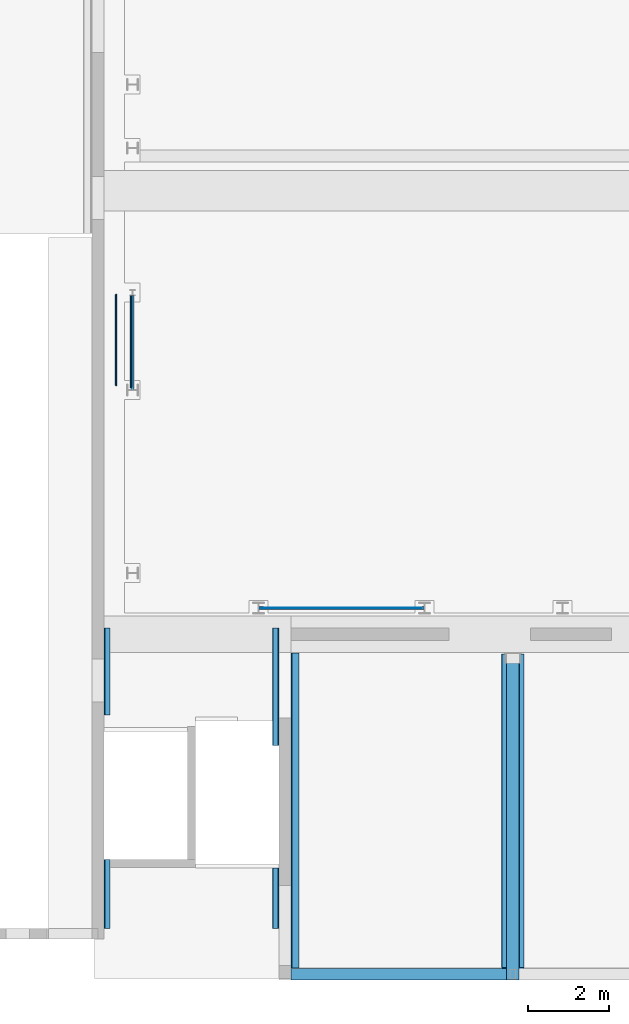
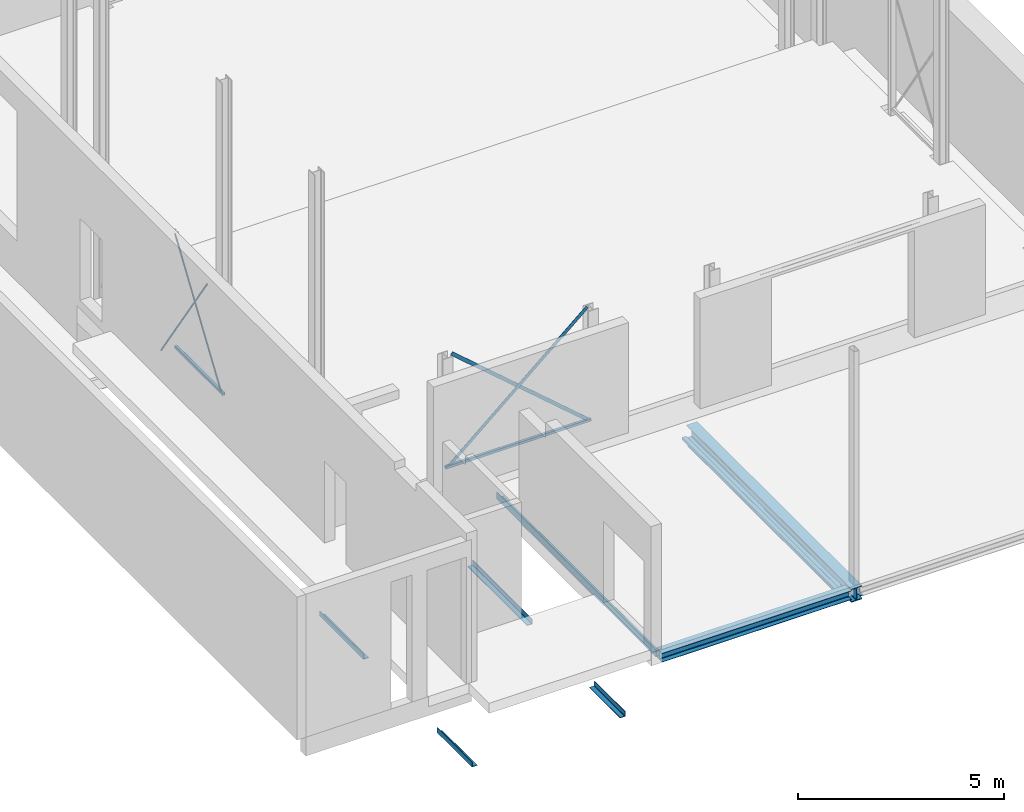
# One storey, part 11 of 37: 15 beams.
"""IFC2X3 building model written with IfcOpenShell, lengths in millimetres."""

import ifcopenshell
import ifcopenshell.guid

model = None  # the IFC model being written
_history = None  # IfcOwnerHistory: only IFC2X3 demands one
_inside = {}  # id of a spatial element -> (the spatial element, [elements in it])
_under = {}  # id of a project, library or spatial element -> (it, [spatial elements below it])
_declared = {}  # id of a project -> (the project, [libraries it declares])
_typed = {}  # id of a type object -> (the type object, [elements of that type])
_made_of = {}  # id of a material, layer set ... -> (it, [elements and type objects made of it])


def new_model(schema):
    """Start an empty IFC model of exactly this schema.

    Asked for "IFC4X3", IfcOpenShell would pick the latest addendum, in which some entities
    have other attributes; the version numbers below select the first issue.
    IFC2X3 requires an IfcOwnerHistory on every rooted entity: one is made here for all.
    """
    global model, _history
    if schema == "IFC4X3":
        model = ifcopenshell.file(schema_version=(4, 3, 0, 0))
    else:
        model = ifcopenshell.file(schema=schema)
    _inside.clear()
    _under.clear()
    _declared.clear()
    _typed.clear()
    _made_of.clear()
    _history = None
    if model.schema == "IFC2X3":
        org = make("IfcOrganization", Name="unknown")
        user = make(
            "IfcPersonAndOrganization",
            ThePerson=make("IfcPerson", FamilyName="unknown"),
            TheOrganization=org,
        )
        app = make(
            "IfcApplication",
            ApplicationDeveloper=org,
            Version="unknown",
            ApplicationFullName="unknown",
            ApplicationIdentifier="unknown",
        )
        _history = make(
            "IfcOwnerHistory",
            OwningUser=user,
            OwningApplication=app,
            ChangeAction="ADDED",
            CreationDate=0,
        )
    return model


def make(cls, **values):
    """One entity of the class cls with the attributes given. An attribute that is None is left unset."""
    return model.create_entity(
        cls, **{name: value for name, value in values.items() if value is not None}
    )


def entity(cls, *values):
    """Any entity or typed value of the class cls, its attributes in the order of the schema. None: left unset."""
    e = model.create_entity(cls)
    for i, value in enumerate(values):
        if value is not None:
            e[i] = value
    return e


def rooted(cls, **values):
    """An entity with a GlobalId (a new one), such as an element, a storey or a relation."""
    return make(cls, GlobalId=ifcopenshell.guid.new(), OwnerHistory=_history, **values)


def si_unit(unit_type, name, prefix=None):
    """IfcSIUnit, for example si_unit("LENGTHUNIT", "METRE", prefix="MILLI")."""
    return make("IfcSIUnit", UnitType=unit_type, Prefix=prefix, Name=name)


def converted_unit(unit_type, name, factor, base, dimensions=None, offset=None):
    """IfcConversionBasedUnit, such as the inch: factor (a typed value) times the base unit."""
    return make(
        "IfcConversionBasedUnit"
        if offset is None
        else "IfcConversionBasedUnitWithOffset",
        ConversionOffset=offset,
        Dimensions=None
        if dimensions is None
        else entity("IfcDimensionalExponents", *dimensions),
        UnitType=unit_type,
        Name=name,
        ConversionFactor=make(
            "IfcMeasureWithUnit", ValueComponent=factor, UnitComponent=base
        ),
    )


def derived_unit(unit_type, elements):
    """IfcDerivedUnit: a product of units, each with its exponent."""
    return make(
        "IfcDerivedUnit",
        Elements=[
            make("IfcDerivedUnitElement", Unit=unit, Exponent=power)
            for unit, power in elements
        ],
        UnitType=unit_type,
    )


def assignment(units):
    """IfcUnitAssignment: the units of a project."""
    return None if units is None else make("IfcUnitAssignment", Units=units)


def point(xyz):
    """IfcCartesianPoint."""
    return None if xyz is None else make("IfcCartesianPoint", Coordinates=xyz)


def direction(xyz):
    """IfcDirection."""
    return None if xyz is None else make("IfcDirection", DirectionRatios=xyz)


def frame(location, z_axis=None, x_axis=None):
    """IfcAxis2Placement3D, a coordinate frame: its origin and axes. An axis left out is left unset."""
    return make(
        "IfcAxis2Placement3D",
        Location=point(location),
        Axis=direction(z_axis),
        RefDirection=direction(x_axis),
    )


def frame_2d(location, x_axis=None):
    """IfcAxis2Placement2D, a coordinate frame in the plane: its origin and x axis."""
    return make(
        "IfcAxis2Placement2D", Location=point(location), RefDirection=direction(x_axis)
    )


def origin():
    """The frame at (0, 0, 0) with its axes left unset."""
    return frame((0.0, 0.0, 0.0))


def origin_2d_with_axis():
    """The frame at (0, 0) in the plane with the x axis (1, 0) written out."""
    return frame_2d((0.0, 0.0), x_axis=(1.0, 0.0))


def place(relative_to, where):
    """IfcLocalPlacement: puts the frame where relative to a parent placement (None: the world)."""
    return make(
        "IfcLocalPlacement", PlacementRelTo=relative_to, RelativePlacement=where
    )


def context(
    kind, dimensions, precision=None, world=None, true_north=None, identifier=None
):
    """IfcGeometricRepresentationContext, for example the 3D "Model" context."""
    return make(
        "IfcGeometricRepresentationContext",
        ContextIdentifier=identifier,
        ContextType=kind,
        CoordinateSpaceDimension=dimensions,
        Precision=precision,
        WorldCoordinateSystem=world,
        TrueNorth=true_north,
    )


def subcontext(parent, identifier, kind, view, scale=None):
    """IfcGeometricRepresentationSubContext, for example "Body" below "Model"."""
    return make(
        "IfcGeometricRepresentationSubContext",
        ContextIdentifier=identifier,
        ContextType=kind,
        ParentContext=parent,
        TargetScale=scale,
        TargetView=view,
    )


def project(units=None, contexts=None):
    """IfcProject with its units and contexts."""
    return rooted(
        "IfcProject",
        Name="project",
        RepresentationContexts=contexts,
        UnitsInContext=assignment(units),
    )


def spatial(cls, under=None, at=None, **own):
    """A site, building, storey or space (cls), placed at a placement, below another one or the project."""
    s = rooted(cls, ObjectPlacement=at, **own)
    if under is not None:
        _under.setdefault(under.id(), (under, []))[1].append(s)
    return s


def polyline(points):
    """IfcPolyline through the points."""
    return make("IfcPolyline", Points=[point(p) for p in points])


def circle_curve(where, radius):
    """IfcCircle in the frame where."""
    return make("IfcCircle", Position=where, Radius=radius)


def parameter(value):
    """IfcParameterValue: where a trimmed curve begins or ends, as a parameter of its basis curve."""
    return model.create_entity("IfcParameterValue", value)


def trimmed(basis, trim1, trim2, sense, master):
    """IfcTrimmedCurve: the piece of a basis curve between two trims."""
    return make(
        "IfcTrimmedCurve",
        BasisCurve=basis,
        Trim1=trim1,
        Trim2=trim2,
        SenseAgreement=sense,
        MasterRepresentation=master,
    )


def segment(curve, same_sense, transition):
    """IfcCompositeCurveSegment."""
    return make(
        "IfcCompositeCurveSegment",
        Transition=transition,
        SameSense=same_sense,
        ParentCurve=curve,
    )


def composite_curve(segments, self_intersect=None):
    """IfcCompositeCurve: segments joined end to end."""
    return make("IfcCompositeCurve", Segments=segments, SelfIntersect=self_intersect)


def profile(cls, at=None, kind="AREA", **sizes):
    """A parametric profile (cls). Its sizes go by their IFC names, for example OverallWidth=200.0."""
    return make(cls, ProfileType=kind, Position=at, **sizes)


def rectangle(**sizes):
    """IfcRectangleProfileDef."""
    return profile("IfcRectangleProfileDef", **sizes)


def circle(**sizes):
    """IfcCircleProfileDef."""
    return profile("IfcCircleProfileDef", **sizes)


def i_section(**sizes):
    """IfcIShapeProfileDef."""
    return profile("IfcIShapeProfileDef", **sizes)


def outline(outer, holes=None, kind="AREA"):
    """IfcArbitraryClosedProfileDef: a profile drawn as a closed curve; with holes, ...WithVoids."""
    if holes is None:
        return make("IfcArbitraryClosedProfileDef", ProfileType=kind, OuterCurve=outer)
    return make(
        "IfcArbitraryProfileDefWithVoids",
        ProfileType=kind,
        OuterCurve=outer,
        InnerCurves=holes,
    )


def extrude(swept, where, along, depth):
    """IfcExtrudedAreaSolid: the profile swept, set in the frame where, extruded along a direction by depth."""
    return make(
        "IfcExtrudedAreaSolid",
        SweptArea=swept,
        Position=where,
        ExtrudedDirection=direction(along),
        Depth=depth,
    )


def shape(context_of_items, identifier, shape_type, items):
    """IfcShapeRepresentation: the items that make up one representation, for example the "Body"."""
    return make(
        "IfcShapeRepresentation",
        ContextOfItems=context_of_items,
        RepresentationIdentifier=identifier,
        RepresentationType=shape_type,
        Items=items,
    )


def source(mapping_origin, context_of_items, identifier, shape_type, items):
    """IfcRepresentationMap: a shape defined once, which mapped items show again and again."""
    return make(
        "IfcRepresentationMap",
        MappingOrigin=mapping_origin,
        MappedRepresentation=shape(context_of_items, identifier, shape_type, items),
    )


def transform(
    local_origin,
    x_axis=None,
    y_axis=None,
    z_axis=None,
    scale=None,
    scale2=None,
    scale3=None,
    uniform=True,
):
    """IfcCartesianTransformationOperator3D, or its non-uniform kind. x_axis, y_axis, z_axis: its Axis1, 2, 3."""
    if uniform:
        return make(
            "IfcCartesianTransformationOperator3D",
            Axis1=direction(x_axis),
            Axis2=direction(y_axis),
            LocalOrigin=point(local_origin),
            Scale=scale,
            Axis3=direction(z_axis),
        )
    return make(
        "IfcCartesianTransformationOperator3DnonUniform",
        Axis1=direction(x_axis),
        Axis2=direction(y_axis),
        LocalOrigin=point(local_origin),
        Scale=scale,
        Axis3=direction(z_axis),
        Scale2=scale2,
        Scale3=scale3,
    )


def mapped(mapping_source, mapping_target):
    """IfcMappedItem: shows the shape of a source again, moved by a transform."""
    return make(
        "IfcMappedItem", MappingSource=mapping_source, MappingTarget=mapping_target
    )


def material(Name=None, Category=None):
    """IfcMaterial."""
    return make("IfcMaterial", Name=Name, Category=Category)


def material_list(materials):
    """IfcMaterialList."""
    return make("IfcMaterialList", Materials=materials)


def made_of(thing, what):
    """Note that an element or type object is made of a material, layer set ...; save() writes the relation."""
    if what is not None:
        _made_of.setdefault(what.id(), (what, []))[1].append(thing)
    return thing


def type_object(cls, material=None, **own):
    """A type object (cls), such as IfcWallType, which elements share."""
    return made_of(rooted(cls, **own), material)


def type_shapes(of_type, sources):
    """Give a type object the sources (RepresentationMaps) that its elements show as mapped items."""
    of_type.RepresentationMaps = sources


def element(
    cls,
    number,
    at=None,
    inside=None,
    cuts=None,
    type_object=None,
    material=None,
    context=None,
    identifier="Body",
    shape_type=None,
    held_by="IfcProductDefinitionShape",
    body=None,
    shapes=None,
    **own,
):
    """One element of the class cls, such as IfcWall. Its Tag is "e" and its number.

    at: its placement. inside: the storey or other place that contains it. cuts: it is an
    opening in that element (IfcRelVoidsElement). A single representation is given by context,
    identifier, shape_type and body (its items); several are given by shapes. held_by: the class
    of the entity that holds the representations. save() writes the other relations.
    """
    e = rooted(cls, Tag="e%d" % number, ObjectPlacement=at, **own)
    if body is not None:
        shapes = [shape(context, identifier, shape_type, body)]
    if shapes is not None:
        e.Representation = make(held_by, Representations=shapes)
    if inside is not None:
        _inside.setdefault(inside.id(), (inside, []))[1].append(e)
    if cuts is not None:
        rooted(
            "IfcRelVoidsElement", RelatingBuildingElement=cuts, RelatedOpeningElement=e
        )
    if type_object is not None:
        _typed.setdefault(type_object.id(), (type_object, []))[1].append(e)
    return made_of(e, material)


def aggregate(whole, parts):
    """IfcRelAggregates: a whole, such as a stair, and the parts it consists of."""
    return rooted("IfcRelAggregates", RelatingObject=whole, RelatedObjects=parts)


def save(model, path):
    """Write the relations noted so far, then the file.

    IfcRelAggregates (storeys below a building ...), IfcRelContainedInSpatialStructure (elements
    in a storey), IfcRelDefinesByType, IfcRelAssociatesMaterial and IfcRelDeclares: one each for
    every whole, place, type object, material and project.
    """
    for whole, parts in _under.values():
        aggregate(whole, parts)
    for where, things in _inside.values():
        rooted(
            "IfcRelContainedInSpatialStructure",
            RelatedElements=things,
            RelatingStructure=where,
        )
    for kind, things in _typed.values():
        rooted("IfcRelDefinesByType", RelatedObjects=things, RelatingType=kind)
    for what, things in _made_of.values():
        rooted("IfcRelAssociatesMaterial", RelatedObjects=things, RelatingMaterial=what)
    for by, libraries in _declared.values():
        rooted("IfcRelDeclares", RelatingContext=by, RelatedDefinitions=libraries)
    model.write(path)


model = new_model("IFC2X3")

# Units and contexts
model_context = context("Model", 3, precision=0.01, world=origin(), true_north=direction((6.12303176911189e-17, 1.0)))
body_context = subcontext(model_context, "Body", "Model", "MODEL_VIEW")
ifc_project = project(units=[si_unit("LENGTHUNIT", "METRE", prefix="MILLI"), si_unit("AREAUNIT", "SQUARE_METRE", prefix="MILLI"), si_unit("VOLUMEUNIT", "CUBIC_METRE"), converted_unit("PLANEANGLEUNIT", "DEGREE", entity("IfcRatioMeasure", 0.0174532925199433), si_unit("PLANEANGLEUNIT", "RADIAN"), dimensions=[0, 0, 0, 0, 0, 0, 0]), si_unit("MASSUNIT", "GRAM", prefix="KILO"), derived_unit("MASSDENSITYUNIT", [(si_unit("MASSUNIT", "GRAM", prefix="KILO"), 1), (si_unit("LENGTHUNIT", "METRE"), -3)]), derived_unit("MOMENTOFINERTIAUNIT", [(si_unit("LENGTHUNIT", "METRE"), 4)]), si_unit("TIMEUNIT", "SECOND"), si_unit("FREQUENCYUNIT", "HERTZ"), si_unit("THERMODYNAMICTEMPERATUREUNIT", "DEGREE_CELSIUS"), derived_unit("THERMALTRANSMITTANCEUNIT", [(si_unit("MASSUNIT", "GRAM", prefix="KILO"), 1), (si_unit("THERMODYNAMICTEMPERATUREUNIT", "KELVIN"), -1), (si_unit("TIMEUNIT", "SECOND"), -3)]), derived_unit("VOLUMETRICFLOWRATEUNIT", [(si_unit("LENGTHUNIT", "METRE"), 3), (si_unit("TIMEUNIT", "SECOND"), -1)]), si_unit("ELECTRICCURRENTUNIT", "AMPERE"), si_unit("ELECTRICVOLTAGEUNIT", "VOLT"), si_unit("POWERUNIT", "WATT"), si_unit("FORCEUNIT", "NEWTON", prefix="KILO"), si_unit("ILLUMINANCEUNIT", "LUX"), si_unit("LUMINOUSFLUXUNIT", "LUMEN"), si_unit("LUMINOUSINTENSITYUNIT", "CANDELA"), derived_unit("USERDEFINED", [(si_unit("MASSUNIT", "GRAM", prefix="KILO"), -1), (si_unit("LENGTHUNIT", "METRE"), -2), (si_unit("TIMEUNIT", "SECOND"), 3), (si_unit("LUMINOUSFLUXUNIT", "LUMEN"), 1)]), derived_unit("LINEARVELOCITYUNIT", [(si_unit("LENGTHUNIT", "METRE"), 1), (si_unit("TIMEUNIT", "SECOND"), -1)]), si_unit("PRESSUREUNIT", "PASCAL"), derived_unit("USERDEFINED", [(si_unit("LENGTHUNIT", "METRE"), -2), (si_unit("MASSUNIT", "GRAM", prefix="KILO"), 1), (si_unit("TIMEUNIT", "SECOND"), -2)]), derived_unit("LINEARFORCEUNIT", [(si_unit("MASSUNIT", "GRAM", prefix="KILO"), 1), (si_unit("LENGTHUNIT", "METRE"), 1), (si_unit("TIMEUNIT", "SECOND"), -2), (si_unit("LENGTHUNIT", "METRE"), -1)]), derived_unit("PLANARFORCEUNIT", [(si_unit("MASSUNIT", "GRAM", prefix="KILO"), 1), (si_unit("LENGTHUNIT", "METRE"), 1), (si_unit("TIMEUNIT", "SECOND"), -2), (si_unit("LENGTHUNIT", "METRE"), -2)])], contexts=[model_context])

# Site, building, storey
site_placement = place(None, origin())
site = spatial("IfcSite", under=ifc_project, at=site_placement, Name="Theater aan de Parade", CompositionType="ELEMENT")
building_placement = place(site_placement, origin())
building = spatial("IfcBuilding", under=site, at=building_placement, Name="Theater aan de Parade", CompositionType="ELEMENT")
storey_placement = place(building_placement, frame((0.0, 0.0, 5020.0)))
storey = spatial("IfcBuildingStorey", under=building, at=storey_placement, Name="01 eerste verdieping", CompositionType="ELEMENT", Elevation=5020.0)

# Beams
ifc_material_1 = material(Name="00_PBT_MAT_staal_S355")
ifc_material_2 = material(Name="00_PBT_MAT_Lucht")
ifc_material_list = material_list([ifc_material_1, ifc_material_2])
beam_type_1 = type_object("IfcBeamType", Name="28_PBT_SF_staal_H-profiel_met_onderplaat (void):S355_HE400B + onderplaat d=25", PredefinedType="BEAM", material=ifc_material_list)
shared_shape = source(origin(), body_context, "Body", "SweptSolid", [
    extrude(i_section(OverallWidth=300.000000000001, OverallDepth=400.0, WebThickness=13.5000000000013, FlangeThickness=24.0, FilletRadius=26.9999999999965, at=frame_2d((-2.1600499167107e-12, 0.0), x_axis=(1.0, 0.0))), frame((25410.0, 9057.0, 4675.0), z_axis=(0.0, 1.0, 0.0), x_axis=(-1.0, 0.0, 0.0)), (0.0, 0.0, 1.0), 8014.30844689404),
    extrude(rectangle(XDim=24.9999999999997, YDim=539.999999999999, at=frame_2d((0.0, 0.0), x_axis=(0.0, 1.0))), frame((25410.0, 9207.0, 4462.5), z_axis=(0.0, 1.0, 0.0), x_axis=(-1.0, 0.0, 0.0)), (0.0, 0.0, 1.0), 7604.30844689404),
])
type_shapes(beam_type_1, [shared_shape])
beam_1_placement = place(storey_placement, frame((0.0, 0.0, -5020.0)))
element("IfcBeam", 1, at=beam_1_placement, inside=storey, type_object=beam_type_1, material=ifc_material_1, Name="28_PBT_SF_staal_H-profiel_met_onderplaat (void):S355_HE400B + onderplaat d=25", ObjectType="28_PBT_SF_staal_H-profiel_met_onderplaat (void):S355_HE400B + onderplaat d=25", context=body_context, shape_type="MappedRepresentation", body=[
    mapped(shared_shape, transform((0.0, 0.0, 0.0), scale=1.0)),
])
ifc_material_3 = material(Name="00_PBT_MAT_staal")
beam_type_2 = type_object("IfcBeamType", Name="28_PBT_SF_staal_strip:strip 6x100", PredefinedType="NOTDEFINED")
beam_2_placement = place(storey_placement, frame((19219.3792721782, 18206.3058650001, 27.8977347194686), z_axis=(-0.653596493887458, 0.0, 0.75684319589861), x_axis=(0.75684319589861, 0.0, 0.653596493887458)))
element("IfcBeam", 2, at=beam_2_placement, inside=storey, type_object=beam_type_2, material=ifc_material_3, Name="28_PBT_SF_staal_strip:strip 6x100", ObjectType="28_PBT_SF_staal_strip:strip 6x100", context=body_context, shape_type="SweptSolid", body=[
    extrude(rectangle(XDim=99.9999999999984, YDim=5.99999999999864, at=origin_2d_with_axis()), frame((0.0, -3.0, 0.0), z_axis=(1.0, 0.0, 0.0), x_axis=(0.0, 0.0, -1.0)), (0.0, 0.0, 1.0), 5174.65038309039),
])
beam_3_placement = place(storey_placement, frame((23235.8687204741, 18206.305865, -2.59653295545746), z_axis=(0.653118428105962, 0.0, 0.757255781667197), x_axis=(-0.757255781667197, 0.0, 0.653118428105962)))
element("IfcBeam", 3, at=beam_3_placement, inside=storey, type_object=beam_type_2, material=ifc_material_3, Name="28_PBT_SF_staal_strip:strip 6x100", ObjectType="28_PBT_SF_staal_strip:strip 6x100", context=body_context, shape_type="SweptSolid", body=[
    extrude(rectangle(XDim=100.000000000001, YDim=5.99999999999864, at=frame_2d((0.0, 1.08291153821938e-12), x_axis=(1.0, 0.0))), frame((139.84222696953, -3.0, 0.0), z_axis=(1.0, 0.0, 0.0), x_axis=(0.0, 0.0, -1.0)), (0.0, 0.0, 1.0), 5009.02795542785),
])
beam_type_3 = type_object("IfcBeamType", Name="28_PBT_SF_staal_H-profiel (void):S355_HE280A", PredefinedType="NOTDEFINED")
beam_4_placement = place(storey_placement, frame((25260.0, 9197.0, 0.0), z_axis=(0.0, 0.0, 1.0), x_axis=(-1.0, 0.0, 0.0)))
element("IfcBeam", 4, at=beam_4_placement, inside=storey, type_object=beam_type_3, material=ifc_material_1, Name="28_PBT_SF_staal_H-profiel (void):S355_HE280A", ObjectType="28_PBT_SF_staal_H-profiel (void):S355_HE280A", context=body_context, shape_type="SweptSolid", body=[
    extrude(outline(composite_curve([segment(polyline([(122.0, -140.0), (135.0, -140.0)]), True, "CONTINUOUS"), segment(polyline([(135.0, -140.0), (135.0, 140.0)]), True, "CONTINUOUS"), segment(polyline([(135.0, 140.0), (122.0, 140.0)]), True, "CONTINUOUS"), segment(polyline([(122.0, 140.0), (122.0, 28.0)]), True, "CONTINUOUS"), segment(trimmed(circle_curve(frame_2d((98.0, 28.0), x_axis=(1.0, 0.0)), 23.9999999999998), [parameter(270.0)], [parameter(0.0)], True, "PARAMETER"), False, "CONTINUOUS"), segment(polyline([(98.0, 4.0), (-98.0, 4.0)]), True, "CONTINUOUS"), segment(trimmed(circle_curve(frame_2d((-98.0, 28.0), x_axis=(0.0, -1.0)), 24.0000000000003), [parameter(270.000000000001)], [parameter(0.0)], True, "PARAMETER"), False, "CONTINUOUS"), segment(polyline([(-122.0, 28.0), (-122.0, 140.0)]), True, "CONTINUOUS"), segment(polyline([(-122.0, 140.0), (-135.0, 140.0)]), True, "CONTINUOUS"), segment(polyline([(-135.0, 140.0), (-135.0, -140.0)]), True, "CONTINUOUS"), segment(polyline([(-135.0, -140.0), (-122.0, -140.0)]), True, "CONTINUOUS"), segment(polyline([(-122.0, -140.0), (-122.0, -28.0)]), True, "CONTINUOUS"), segment(trimmed(circle_curve(frame_2d((-98.0, -28.0), x_axis=(-1.0, 0.0)), 23.9999999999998), [parameter(269.999999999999)], [parameter(0.0)], True, "PARAMETER"), False, "CONTINUOUS"), segment(polyline([(-98.0, -4.0), (98.0, -4.0)]), True, "CONTINUOUS"), segment(trimmed(circle_curve(frame_2d((98.0, -28.0), x_axis=(0.0, 1.0)), 24.0000000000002), [parameter(270.000000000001)], [parameter(0.0)], True, "PARAMETER"), False, "CONTINUOUS"), segment(polyline([(122.0, -28.0), (122.0, -140.0)]), True, "CONTINUOUS")], self_intersect=False)), frame((0.0, 0.0, -325.0), z_axis=(1.0, 0.0, 0.0), x_axis=(0.0, 0.0, -1.0)), (0.0, 0.0, 1.0), 5306.14299748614),
])
beam_type_4 = type_object("IfcBeamType", Name="28_PBT_SF_staal_L-profiel:S355_L150x150x15", PredefinedType="NOTDEFINED")
beam_5_placement = place(storey_placement, frame((15396.3570025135, 15464.9752768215, 0.0), z_axis=(0.0, 0.0, 1.0), x_axis=(0.0, 1.0, 0.0)))
element("IfcBeam", 5, at=beam_5_placement, inside=storey, type_object=beam_type_4, material=ifc_material_1, Name="28_PBT_SF_staal_L-profiel:S355_L150x150x15", ObjectType="28_PBT_SF_staal_L-profiel:S355_L150x150x15", context=body_context, shape_type="SweptSolid", body=[
    extrude(outline(composite_curve([segment(polyline([(49.6666666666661, -93.3333333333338), (56.6666666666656, -93.3333333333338)]), True, "CONTINUOUS"), segment(polyline([(56.6666666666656, -93.3333333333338), (56.6666666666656, 56.6666666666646)]), True, "CONTINUOUS"), segment(polyline([(56.6666666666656, 56.6666666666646), (-93.3333333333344, 56.6666666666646)]), True, "CONTINUOUS"), segment(polyline([(-93.3333333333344, 56.6666666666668), (-93.3333333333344, 49.6666666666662)]), True, "CONTINUOUS"), segment(trimmed(circle_curve(frame_2d((-85.3333333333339, 49.6666666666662), x_axis=(-1.0, 0.0)), 8.00000000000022), [parameter(0.0)], [parameter(90.0000000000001)], True, "PARAMETER"), True, "CONTINUOUS"), segment(polyline([(-85.3333333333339, 41.6666666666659), (25.6666666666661, 41.6666666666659)]), True, "CONTINUOUS"), segment(trimmed(circle_curve(frame_2d((25.6666666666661, 25.6666666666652), x_axis=(0.0, 1.0)), 15.9999999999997), [parameter(270.0)], [parameter(0.0)], True, "PARAMETER"), False, "CONTINUOUS"), segment(polyline([(41.6666666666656, 25.6666666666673), (41.6666666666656, -85.3333333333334)]), True, "CONTINUOUS"), segment(trimmed(circle_curve(frame_2d((49.6666666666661, -85.3333333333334), x_axis=(-1.0, 0.0)), 8.00000000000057), [parameter(0.0)], [parameter(89.9999999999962)], True, "PARAMETER"), True, "CONTINUOUS")], self_intersect=False)), frame((112.699999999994, -14.1666666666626, -2663.33333333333), z_axis=(1.0, 0.0, 0.0), x_axis=(0.0, 0.0, -1.0)), (0.0, 0.0, 1.0), 2133.63317767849),
])
beam_6_placement = place(storey_placement, frame((19611.3570025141, 14828.0288742, 0.0), z_axis=(0.0, 0.0, 1.0), x_axis=(0.0, 1.0, 0.0)))
element("IfcBeam", 6, at=beam_6_placement, inside=storey, type_object=beam_type_4, material=ifc_material_1, Name="28_PBT_SF_staal_L-profiel:S355_L150x150x15", ObjectType="28_PBT_SF_staal_L-profiel:S355_L150x150x15", context=body_context, shape_type="SweptSolid", body=[
    extrude(outline(composite_curve([segment(polyline([(-93.333333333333, -56.6666666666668), (56.666666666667, -56.6666666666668)]), True, "CONTINUOUS"), segment(polyline([(56.666666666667, -56.6666666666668), (56.666666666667, 93.3333333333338)]), True, "CONTINUOUS"), segment(polyline([(56.666666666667, 93.3333333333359), (49.6666666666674, 93.3333333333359)]), True, "CONTINUOUS"), segment(trimmed(circle_curve(frame_2d((49.6666666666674, 85.3333333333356), x_axis=(0.0, 1.0)), 8.00000000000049), [parameter(0.0)], [parameter(89.9999999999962)], True, "PARAMETER"), True, "CONTINUOUS"), segment(polyline([(41.666666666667, 85.3333333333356), (41.666666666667, -25.6666666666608)]), True, "CONTINUOUS"), segment(trimmed(circle_curve(frame_2d((25.666666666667, -25.6666666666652), x_axis=(1.0, 0.0)), 16.0000000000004), [parameter(270.000000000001)], [parameter(0.0)], True, "PARAMETER"), False, "CONTINUOUS"), segment(polyline([(25.6666666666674, -41.6666666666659), (-85.3333333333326, -41.6666666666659)]), True, "CONTINUOUS"), segment(trimmed(circle_curve(frame_2d((-85.3333333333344, -49.666666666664), x_axis=(0.0, 1.0)), 7.99999999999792), [parameter(0.0)], [parameter(90.0000000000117)], True, "PARAMETER"), True, "CONTINUOUS"), segment(polyline([(-93.333333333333, -49.666666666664), (-93.333333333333, -56.6666666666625)]), True, "CONTINUOUS")], self_intersect=False)), frame((0.0, 14.1666666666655, -2663.33333333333), z_axis=(1.0, 0.0, 0.0), x_axis=(0.0, 0.0, -1.0)), (0.0, 0.0, 1.0), 2883.27958029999),
])
beam_7_placement = place(storey_placement, frame((15396.3570025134, 10319.3270746, 0.0), z_axis=(0.0, 0.0, 1.0), x_axis=(0.0, 1.0, 0.0)))
element("IfcBeam", 7, at=beam_7_placement, inside=storey, type_object=beam_type_4, material=ifc_material_1, Name="28_PBT_SF_staal_L-profiel:S355_L150x150x15", ObjectType="28_PBT_SF_staal_L-profiel:S355_L150x150x15", context=body_context, shape_type="SweptSolid", body=[
    extrude(outline(composite_curve([segment(polyline([(49.6666666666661, -93.3333333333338), (56.6666666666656, -93.3333333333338)]), True, "CONTINUOUS"), segment(polyline([(56.6666666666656, -93.3333333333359), (56.6666666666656, 56.6666666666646)]), True, "CONTINUOUS"), segment(polyline([(56.6666666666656, 56.6666666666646), (-93.3333333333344, 56.6666666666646)]), True, "CONTINUOUS"), segment(polyline([(-93.3333333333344, 56.6666666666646), (-93.3333333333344, 49.6666666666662)]), True, "CONTINUOUS"), segment(trimmed(circle_curve(frame_2d((-85.3333333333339, 49.6666666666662), x_axis=(-1.0, 0.0)), 8.00000000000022), [parameter(0.0)], [parameter(90.0000000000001)], True, "PARAMETER"), True, "CONTINUOUS"), segment(polyline([(-85.3333333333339, 41.6666666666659), (25.6666666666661, 41.6666666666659)]), True, "CONTINUOUS"), segment(trimmed(circle_curve(frame_2d((25.6666666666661, 25.6666666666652), x_axis=(0.0, 1.0)), 15.9999999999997), [parameter(270.0)], [parameter(0.0)], True, "PARAMETER"), False, "CONTINUOUS"), segment(polyline([(41.6666666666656, 25.6666666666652), (41.6666666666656, -85.3333333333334)]), True, "CONTINUOUS"), segment(trimmed(circle_curve(frame_2d((49.6666666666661, -85.3333333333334), x_axis=(-1.0, 0.0)), 8.00000000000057), [parameter(0.0)], [parameter(89.9999999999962)], True, "PARAMETER"), True, "CONTINUOUS")], self_intersect=False)), frame((0.0, -14.1666666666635, -2663.33333333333), z_axis=(1.0, 0.0, 0.0), x_axis=(0.0, 0.0, -1.0)), (0.0, 0.0, 1.0), 1700.00000004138),
])
beam_8_placement = place(storey_placement, frame((19611.3570025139, 10319.3270746, 0.0), z_axis=(0.0, 0.0, 1.0), x_axis=(0.0, 1.0, 0.0)))
element("IfcBeam", 8, at=beam_8_placement, inside=storey, type_object=beam_type_4, material=ifc_material_1, Name="28_PBT_SF_staal_L-profiel:S355_L150x150x15", ObjectType="28_PBT_SF_staal_L-profiel:S355_L150x150x15", context=body_context, shape_type="SweptSolid", body=[
    extrude(outline(composite_curve([segment(polyline([(-93.333333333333, -56.6666666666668), (56.666666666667, -56.6666666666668)]), True, "CONTINUOUS"), segment(polyline([(56.666666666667, -56.6666666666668), (56.666666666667, 93.3333333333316)]), True, "CONTINUOUS"), segment(polyline([(56.666666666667, 93.3333333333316), (49.6666666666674, 93.3333333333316)]), True, "CONTINUOUS"), segment(trimmed(circle_curve(frame_2d((49.6666666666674, 85.3333333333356), x_axis=(0.0, 1.0)), 8.00000000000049), [parameter(0.0)], [parameter(89.9999999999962)], True, "PARAMETER"), True, "CONTINUOUS"), segment(polyline([(41.666666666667, 85.3333333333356), (41.666666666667, -25.6666666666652)]), True, "CONTINUOUS"), segment(trimmed(circle_curve(frame_2d((25.666666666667, -25.6666666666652), x_axis=(1.0, 0.0)), 16.0000000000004), [parameter(270.000000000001)], [parameter(0.0)], True, "PARAMETER"), False, "CONTINUOUS"), segment(polyline([(25.6666666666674, -41.6666666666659), (-85.3333333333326, -41.6666666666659)]), True, "CONTINUOUS"), segment(trimmed(circle_curve(frame_2d((-85.3333333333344, -49.666666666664), x_axis=(0.0, 1.0)), 7.99999999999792), [parameter(0.0)], [parameter(90.0000000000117)], True, "PARAMETER"), True, "CONTINUOUS"), segment(polyline([(-93.333333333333, -49.666666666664), (-93.333333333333, -56.6666666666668)]), True, "CONTINUOUS")], self_intersect=False)), frame((0.0, 14.1666666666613, -2663.33333333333), z_axis=(1.0, 0.0, 0.0), x_axis=(0.0, 0.0, -1.0)), (0.0, 0.0, 1.0), 1487.30000004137),
])
beam_type_5 = type_object("IfcBeamType", Name="28_PBT_SF_staal_L-profiel:S355_L200x200x20", PredefinedType="NOTDEFINED")
beam_9_placement = place(storey_placement, frame((20010.6570025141, 9197.0, 0.0), z_axis=(0.0, 0.0, 1.0), x_axis=(0.0, 1.0, 0.0)))
element("IfcBeam", 9, at=beam_9_placement, inside=storey, type_object=beam_type_5, material=ifc_material_1, Name="28_PBT_SF_staal_L-profiel:S355_L200x200x20", ObjectType="28_PBT_SF_staal_L-profiel:S355_L200x200x20", context=body_context, shape_type="SweptSolid", body=[
    extrude(outline(composite_curve([segment(polyline([(64.5555555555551, -124.444444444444), (75.5555555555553, -124.444444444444)]), True, "CONTINUOUS"), segment(polyline([(75.5555555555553, -124.444444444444), (75.5555555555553, 75.5555555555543)]), True, "CONTINUOUS"), segment(polyline([(75.5555555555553, 75.5555555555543), (-124.444444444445, 75.5555555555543)]), True, "CONTINUOUS"), segment(polyline([(-124.444444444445, 75.5555555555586), (-124.444444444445, 64.5555555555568)]), True, "CONTINUOUS"), segment(trimmed(circle_curve(frame_2d((-115.444444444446, 64.5555555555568), x_axis=(-1.0, 0.0)), 8.9999999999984), [parameter(0.0)], [parameter(90.0000000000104)], True, "PARAMETER"), True, "CONTINUOUS"), segment(polyline([(-115.444444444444, 55.5555555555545), (37.5555555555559, 55.5555555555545)]), True, "CONTINUOUS"), segment(trimmed(circle_curve(frame_2d((37.5555555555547, 37.5555555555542), x_axis=(0.0, 1.0)), 18.0000000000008), [parameter(270.000000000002)], [parameter(0.0)], True, "PARAMETER"), False, "CONTINUOUS"), segment(polyline([(55.5555555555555, 37.5555555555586), (55.5555555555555, -115.444444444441)]), True, "CONTINUOUS"), segment(trimmed(circle_curve(frame_2d((64.5555555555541, -115.444444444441), x_axis=(-1.0, 0.0)), 8.9999999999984), [parameter(0.0)], [parameter(90.0000000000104)], True, "PARAMETER"), True, "CONTINUOUS")], self_intersect=False)), frame((152.699999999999, -18.7555555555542, -409.444444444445), z_axis=(1.0, 0.0, 0.0), x_axis=(0.0, 0.0, -1.0)), (0.0, 0.0, 1.0), 7748.90844689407),
])
ifc_material_4 = material(Name="00_PBT_MAT_staal_S235")
beam_type_6 = type_object("IfcBeamType", Name="28_PBT_SF_staal_koker:S235_K80x120x6.3", PredefinedType="NOTDEFINED")
beam_10_placement = place(storey_placement, frame((25135.0, 17071.3084468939, 0.0), z_axis=(0.0, 0.0, 1.0), x_axis=(0.0, -1.0, 0.0)))
element("IfcBeam", 10, at=beam_10_placement, inside=storey, type_object=beam_type_6, material=ifc_material_4, Name="28_PBT_SF_staal_koker:S235_K80x120x6.3", ObjectType="28_PBT_SF_staal_koker:S235_K80x120x6.3", context=body_context, shape_type="SweptSolid", body=[
    extrude(outline(composite_curve([segment(polyline([(-30.5500000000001, -60.0), (30.5499999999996, -60.0)]), True, "CONTINUOUS"), segment(trimmed(circle_curve(frame_2d((30.5499999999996, -50.5499999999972), x_axis=(0.0, 1.0)), 9.45), [parameter(180.0)], [parameter(270.0)], True, "PARAMETER"), True, "CONTINUOUS"), segment(polyline([(40.0, -50.5500000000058), (40.0, 50.5499999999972)]), True, "CONTINUOUS"), segment(trimmed(circle_curve(frame_2d((30.5499999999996, 50.5500000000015), x_axis=(0.0, 1.0)), 9.45), [parameter(270.0)], [parameter(360.0)], True, "PARAMETER"), True, "CONTINUOUS"), segment(polyline([(30.5499999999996, 60.0), (-30.5500000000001, 60.0)]), True, "CONTINUOUS"), segment(trimmed(circle_curve(frame_2d((-30.5500000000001, 50.5500000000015), x_axis=(0.0, 1.0)), 9.45), [parameter(0.0)], [parameter(90.0000000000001)], True, "PARAMETER"), True, "CONTINUOUS"), segment(polyline([(-40.0, 50.5499999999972), (-40.0, -50.5500000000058)]), True, "CONTINUOUS"), segment(trimmed(circle_curve(frame_2d((-30.5500000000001, -50.5499999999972), x_axis=(0.0, 1.0)), 9.45), [parameter(90.0)], [parameter(180.0)], True, "PARAMETER"), True, "CONTINUOUS")], self_intersect=False), holes=[composite_curve([segment(polyline([(33.6999999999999, 47.3999999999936), (33.6999999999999, -47.4000000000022)]), True, "CONTINUOUS"), segment(trimmed(circle_curve(frame_2d((27.3999999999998, -47.3999999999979), x_axis=(0.0, 1.0)), 6.3), [parameter(180.0)], [parameter(270.0)], True, "PARAMETER"), False, "CONTINUOUS"), segment(polyline([(27.3999999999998, -53.7000000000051), (-27.4000000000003, -53.7000000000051)]), True, "CONTINUOUS"), segment(trimmed(circle_curve(frame_2d((-27.4000000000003, -47.3999999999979), x_axis=(0.0, 1.0)), 6.3), [parameter(90.0)], [parameter(180.0)], True, "PARAMETER"), False, "CONTINUOUS"), segment(polyline([(-33.7000000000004, -47.4000000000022), (-33.7000000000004, 47.3999999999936)]), True, "CONTINUOUS"), segment(trimmed(circle_curve(frame_2d((-27.4000000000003, 47.4000000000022), x_axis=(0.0, 1.0)), 6.3), [parameter(4.07110999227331e-13)], [parameter(90.0000000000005)], True, "PARAMETER"), False, "CONTINUOUS"), segment(polyline([(-27.4000000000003, 53.6999999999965), (27.3999999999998, 53.6999999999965)]), True, "CONTINUOUS"), segment(trimmed(circle_curve(frame_2d((27.3999999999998, 47.4000000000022), x_axis=(0.0, 1.0)), 6.3), [parameter(270.0)], [parameter(360.0)], True, "PARAMETER"), False, "CONTINUOUS")], self_intersect=False)]), frame((0.0, 60.0, -505.0), z_axis=(1.0, 0.0, 0.0), x_axis=(0.0, 0.0, 1.0)), (0.0, 0.0, 1.0), 7711.30844689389),
])
beam_11_placement = place(storey_placement, frame((25685.0, 17071.3084468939, 0.0), z_axis=(0.0, 0.0, 1.0), x_axis=(0.0, -1.0, 0.0)))
element("IfcBeam", 11, at=beam_11_placement, inside=storey, type_object=beam_type_6, material=ifc_material_4, Name="28_PBT_SF_staal_koker:S235_K80x120x6.3", ObjectType="28_PBT_SF_staal_koker:S235_K80x120x6.3", context=body_context, shape_type="SweptSolid", body=[
    extrude(outline(composite_curve([segment(trimmed(circle_curve(frame_2d((-50.5499999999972, -30.5500000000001), x_axis=(1.0, 0.0)), 9.45), [parameter(180.0)], [parameter(270.0)], True, "PARAMETER"), True, "CONTINUOUS"), segment(polyline([(-50.5499999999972, -40.0), (50.5500000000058, -40.0)]), True, "CONTINUOUS"), segment(trimmed(circle_curve(frame_2d((50.5500000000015, -30.5500000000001), x_axis=(1.0, 0.0)), 9.45), [parameter(270.0)], [parameter(0.0)], True, "PARAMETER"), True, "CONTINUOUS"), segment(polyline([(60.0, -30.5500000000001), (60.0, 30.5499999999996)]), True, "CONTINUOUS"), segment(trimmed(circle_curve(frame_2d((50.5500000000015, 30.5499999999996), x_axis=(1.0, 0.0)), 9.45), [parameter(3.56222124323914e-13)], [parameter(90.0000000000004)], True, "PARAMETER"), True, "CONTINUOUS"), segment(polyline([(50.5500000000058, 40.0), (-50.5499999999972, 40.0)]), True, "CONTINUOUS"), segment(trimmed(circle_curve(frame_2d((-50.5499999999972, 30.5499999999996), x_axis=(1.0, 0.0)), 9.45), [parameter(90.0000000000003)], [parameter(180.0)], True, "PARAMETER"), True, "CONTINUOUS"), segment(polyline([(-60.0, 30.5499999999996), (-60.0, -30.5500000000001)]), True, "CONTINUOUS")], self_intersect=False), holes=[composite_curve([segment(trimmed(circle_curve(frame_2d((47.4000000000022, 27.3999999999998), x_axis=(1.0, 0.0)), 6.3), [parameter(5.08888749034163e-14)], [parameter(90.0000000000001)], True, "PARAMETER"), False, "CONTINUOUS"), segment(polyline([(53.7000000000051, 27.3999999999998), (53.7000000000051, -27.4000000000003)]), True, "CONTINUOUS"), segment(trimmed(circle_curve(frame_2d((47.4000000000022, -27.4000000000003), x_axis=(1.0, 0.0)), 6.3), [parameter(269.999999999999)], [parameter(360.0)], True, "PARAMETER"), False, "CONTINUOUS"), segment(polyline([(47.4000000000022, -33.7000000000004), (-47.3999999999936, -33.7000000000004)]), True, "CONTINUOUS"), segment(trimmed(circle_curve(frame_2d((-47.3999999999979, -27.4000000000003), x_axis=(1.0, 0.0)), 6.3), [parameter(180.0)], [parameter(270.0)], True, "PARAMETER"), False, "CONTINUOUS"), segment(polyline([(-53.6999999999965, -27.4000000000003), (-53.6999999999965, 27.3999999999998)]), True, "CONTINUOUS"), segment(trimmed(circle_curve(frame_2d((-47.3999999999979, 27.3999999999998), x_axis=(1.0, 0.0)), 6.3), [parameter(89.9999999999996)], [parameter(180.0)], True, "PARAMETER"), False, "CONTINUOUS"), segment(polyline([(-47.3999999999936, 33.6999999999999), (47.4000000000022, 33.6999999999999)]), True, "CONTINUOUS")], self_intersect=False)]), frame((0.0, -60.0, -505.0), z_axis=(1.0, 0.0, 0.0), x_axis=(0.0, 1.0, 0.0)), (0.0, 0.0, 1.0), 7711.30844689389),
])
beam_type_7 = type_object("IfcBeamType", Name="28_PBT_SF_staal_koker:S355_K80x80x5", PredefinedType="NOTDEFINED")
beam_12_placement = place(storey_placement, frame((23227.6081798, 18206.305865, 0.0), z_axis=(0.0, 0.0, 1.0), x_axis=(-1.0, 0.0, 0.0)))
element("IfcBeam", 12, at=beam_12_placement, inside=storey, type_object=beam_type_7, material=ifc_material_1, Name="28_PBT_SF_staal_koker:S355_K80x80x5", ObjectType="28_PBT_SF_staal_koker:S355_K80x80x5", context=body_context, shape_type="SweptSolid", body=[
    extrude(outline(composite_curve([segment(trimmed(circle_curve(frame_2d((-32.5000000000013, -32.5000000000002), x_axis=(1.0, 0.0)), 7.5), [parameter(180.0)], [parameter(270.0)], True, "PARAMETER"), True, "CONTINUOUS"), segment(polyline([(-32.4999999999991, -40.0), (32.4999999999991, -40.0)]), True, "CONTINUOUS"), segment(trimmed(circle_curve(frame_2d((32.4999999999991, -32.5000000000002), x_axis=(1.0, 0.0)), 7.5), [parameter(270.0)], [parameter(0.0)], True, "PARAMETER"), True, "CONTINUOUS"), segment(polyline([(40.0, -32.5000000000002), (40.0, 32.5000000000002)]), True, "CONTINUOUS"), segment(trimmed(circle_curve(frame_2d((32.4999999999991, 32.5000000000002), x_axis=(1.0, 0.0)), 7.5), [parameter(4.07110999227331e-13)], [parameter(90.0000000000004)], True, "PARAMETER"), True, "CONTINUOUS"), segment(polyline([(32.4999999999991, 40.0), (-32.4999999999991, 40.0)]), True, "CONTINUOUS"), segment(trimmed(circle_curve(frame_2d((-32.5000000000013, 32.5000000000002), x_axis=(1.0, 0.0)), 7.5), [parameter(90.0)], [parameter(180.0)], True, "PARAMETER"), True, "CONTINUOUS"), segment(polyline([(-40.0, 32.5000000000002), (-40.0, -32.5000000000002)]), True, "CONTINUOUS")], self_intersect=False), holes=[composite_curve([segment(trimmed(circle_curve(frame_2d((30.0, 30.0), x_axis=(1.0, 0.0)), 5.0), [parameter(360.0)], [parameter(90.0000000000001)], True, "PARAMETER"), False, "CONTINUOUS"), segment(polyline([(35.0, 30.0), (35.0, -30.0)]), True, "CONTINUOUS"), segment(trimmed(circle_curve(frame_2d((30.0, -30.0), x_axis=(1.0, 0.0)), 5.0), [parameter(269.999999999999)], [parameter(360.0)], True, "PARAMETER"), False, "CONTINUOUS"), segment(polyline([(30.0, -35.0), (-30.0, -35.0)]), True, "CONTINUOUS"), segment(trimmed(circle_curve(frame_2d((-30.0, -30.0), x_axis=(1.0, 0.0)), 5.0), [parameter(180.0)], [parameter(270.0)], True, "PARAMETER"), False, "CONTINUOUS"), segment(polyline([(-35.0, -30.0), (-35.0, 30.0)]), True, "CONTINUOUS"), segment(trimmed(circle_curve(frame_2d((-30.0, 30.0), x_axis=(1.0, 0.0)), 5.0), [parameter(89.9999999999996)], [parameter(180.0)], True, "PARAMETER"), False, "CONTINUOUS"), segment(polyline([(-30.0, 35.0), (30.0, 35.0)]), True, "CONTINUOUS")], self_intersect=False)]), frame((0.0, 0.0, 50.0), z_axis=(1.0, 0.0, 0.0), x_axis=(0.0, 1.0, 0.0)), (0.0, 0.0, 1.0), 4065.50117400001),
])
beam_13_placement = place(storey_placement, frame((16053.8570032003, 25896.7922985, 0.0), z_axis=(0.0, 0.0, 1.0), x_axis=(0.0, -1.0, 0.0)))
element("IfcBeam", 13, at=beam_13_placement, inside=storey, type_object=beam_type_7, material=ifc_material_1, Name="28_PBT_SF_staal_koker:S355_K80x80x5", ObjectType="28_PBT_SF_staal_koker:S355_K80x80x5", context=body_context, shape_type="SweptSolid", body=[
    extrude(outline(composite_curve([segment(trimmed(circle_curve(frame_2d((-32.5000000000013, -32.5000000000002), x_axis=(1.0, 0.0)), 7.5), [parameter(180.0)], [parameter(270.0)], True, "PARAMETER"), True, "CONTINUOUS"), segment(polyline([(-32.4999999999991, -40.0), (32.4999999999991, -40.0)]), True, "CONTINUOUS"), segment(trimmed(circle_curve(frame_2d((32.4999999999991, -32.5000000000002), x_axis=(1.0, 0.0)), 7.5), [parameter(270.0)], [parameter(0.0)], True, "PARAMETER"), True, "CONTINUOUS"), segment(polyline([(40.0, -32.5000000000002), (40.0, 32.5000000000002)]), True, "CONTINUOUS"), segment(trimmed(circle_curve(frame_2d((32.4999999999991, 32.5000000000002), x_axis=(1.0, 0.0)), 7.5), [parameter(4.07110999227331e-13)], [parameter(90.0000000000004)], True, "PARAMETER"), True, "CONTINUOUS"), segment(polyline([(32.4999999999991, 40.0), (-32.4999999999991, 40.0)]), True, "CONTINUOUS"), segment(trimmed(circle_curve(frame_2d((-32.5000000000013, 32.5000000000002), x_axis=(1.0, 0.0)), 7.5), [parameter(90.0)], [parameter(180.0)], True, "PARAMETER"), True, "CONTINUOUS"), segment(polyline([(-40.0, 32.5000000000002), (-40.0, -32.5000000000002)]), True, "CONTINUOUS")], self_intersect=False), holes=[composite_curve([segment(trimmed(circle_curve(frame_2d((30.0, 30.0), x_axis=(1.0, 0.0)), 5.0), [parameter(360.0)], [parameter(90.0000000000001)], True, "PARAMETER"), False, "CONTINUOUS"), segment(polyline([(35.0, 30.0), (35.0, -30.0)]), True, "CONTINUOUS"), segment(trimmed(circle_curve(frame_2d((30.0, -30.0), x_axis=(1.0, 0.0)), 5.0), [parameter(269.999999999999)], [parameter(360.0)], True, "PARAMETER"), False, "CONTINUOUS"), segment(polyline([(30.0, -35.0), (-30.0, -35.0)]), True, "CONTINUOUS"), segment(trimmed(circle_curve(frame_2d((-30.0, -30.0), x_axis=(1.0, 0.0)), 5.0), [parameter(180.0)], [parameter(270.0)], True, "PARAMETER"), False, "CONTINUOUS"), segment(polyline([(-35.0, -30.0), (-35.0, 30.0)]), True, "CONTINUOUS"), segment(trimmed(circle_curve(frame_2d((-30.0, 30.0), x_axis=(1.0, 0.0)), 5.0), [parameter(89.9999999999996)], [parameter(180.0)], True, "PARAMETER"), False, "CONTINUOUS"), segment(polyline([(-30.0, 35.0), (30.0, 35.0)]), True, "CONTINUOUS")], self_intersect=False)]), frame((0.0, 0.0, 50.0), z_axis=(1.0, 0.0, 0.0), x_axis=(0.0, 1.0, 0.0)), (0.0, 0.0, 1.0), 2323.25000000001),
])
beam_type_8 = type_object("IfcBeamType", Name="28_PBT_SF_staal_massief_rond:S355_D32", PredefinedType="NOTDEFINED")
beam_14_placement = place(storey_placement, frame((15998.8570032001, 23637.9594331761, 103.431236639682), z_axis=(1.0, 0.0, 0.0), x_axis=(0.0, 0.558652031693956, 0.829402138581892)))
element("IfcBeam", 14, at=beam_14_placement, inside=storey, type_object=beam_type_8, material=ifc_material_1, Name="28_PBT_SF_staal_massief_rond:S355_D32", ObjectType="28_PBT_SF_staal_massief_rond:S355_D32", context=body_context, shape_type="SweptSolid", body=[
    extrude(circle(Radius=16.0000000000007, at=frame_2d((-7.32875762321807e-26, -6.04945921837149e-13), x_axis=(1.0, 0.0))), frame((0.0, 0.0, 16.0), z_axis=(1.0, 0.0, 0.0), x_axis=(0.0, 0.0, -1.0)), (0.0, 0.0, 1.0), 4000.0),
])
beam_15_placement = place(storey_placement, frame((15665.4730183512, 25910.2648540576, 78.7271384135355), z_axis=(1.0, 0.0, 0.0), x_axis=(0.0, -0.558652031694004, 0.829402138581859)))
element("IfcBeam", 15, at=beam_15_placement, inside=storey, type_object=beam_type_8, material=ifc_material_1, Name="28_PBT_SF_staal_massief_rond:S355_D32", ObjectType="28_PBT_SF_staal_massief_rond:S355_D32", context=body_context, shape_type="SweptSolid", body=[
    extrude(circle(Radius=16.0000000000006, at=origin_2d_with_axis()), frame((0.0, 0.0, -16.0), z_axis=(1.0, 0.0, 0.0), x_axis=(0.0, 0.0, -1.0)), (0.0, 0.0, 1.0), 3980.0),
])

save(model, "model.ifc")
